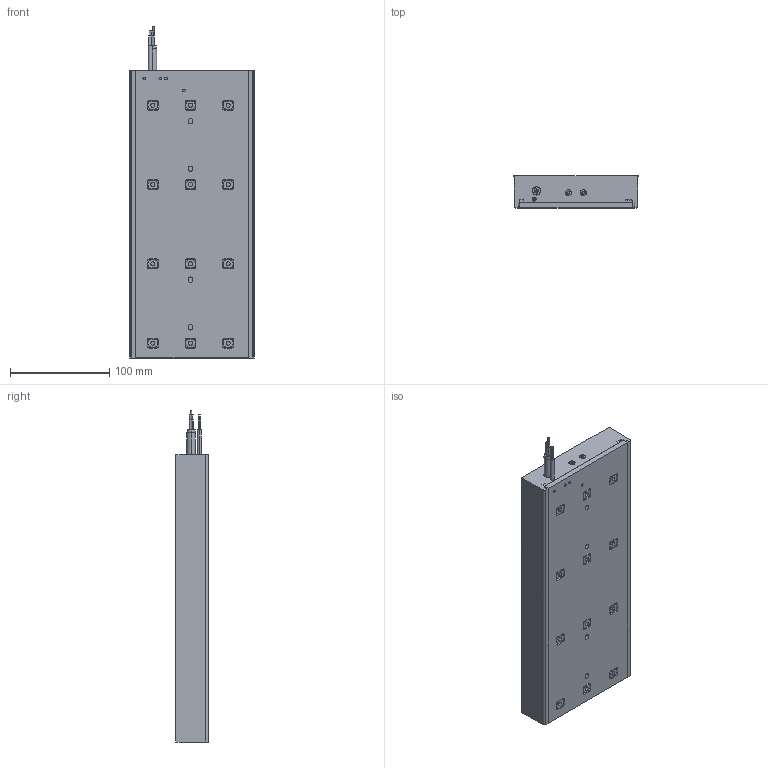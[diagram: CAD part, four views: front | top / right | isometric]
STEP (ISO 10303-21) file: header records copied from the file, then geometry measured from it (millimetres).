
FILE_DESCRIPTION (( 'STEP AP203' ), '1' );
FILE_NAME ('IC15-124 assembly 3D.STEP', '2021-08-31T07:27:33', ( '' ), ( '' ), 'SwSTEP 2.0', 'SolidWorks 2021', '' );
FILE_SCHEMA (( 'CONFIG_CONTROL_DESIGN' ));
Length unit declared in the file: millimetre
Products named in the file (7): power cable IC124 10.1mm 3D; IC15-124 resin; IC15-124 housing; M3 nut hall module for 3D CU; IC15-124 assembly 3D; sensor cable 3D; IC-124 dovetail rounded
Assembly tree (10 placements, depth 2):
  IC15-124 assembly 3D
    IC15-124 housing
    IC-124 dovetail rounded  x4
    IC15-124 resin
    M3 nut hall module for 3D CU  x2
    power cable IC124 10.1mm 3D
    sensor cable 3D
Bounding box: 125.15 x 32.4 x 335 mm (x, y, z)
Volume: 1178730.3 mm3; surface area: 194959.2 mm2
Topology: 10 solids, 10 shells, 664 faces, 1815 edges, 1178 vertices
Faces by surface type: plane 316, cylinder 310, torus 26, sphere 12
Entity records: 14279 total; most frequent: DIRECTION 2420, CARTESIAN_POINT 2365, ORIENTED_EDGE 2274, EDGE_CURVE 1137, AXIS2_PLACEMENT_3D 865, VERTEX_POINT 746, LINE 690, VECTOR 690
